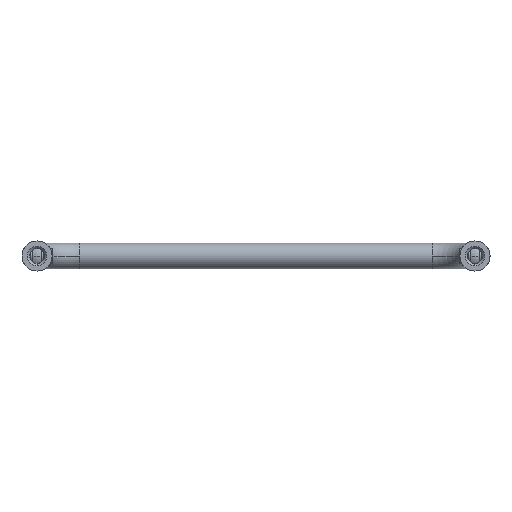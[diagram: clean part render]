
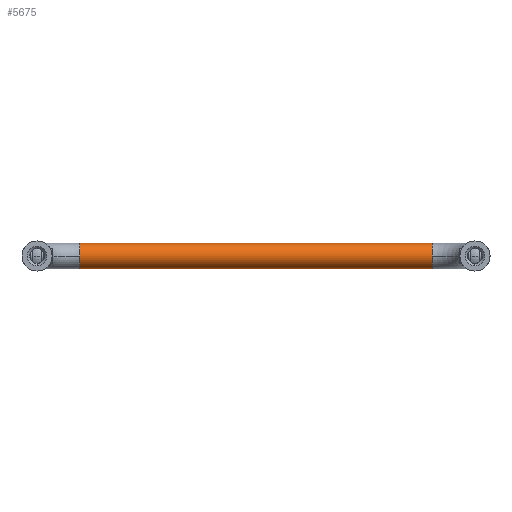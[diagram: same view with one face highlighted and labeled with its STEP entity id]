
A CAD part, front view. The second image highlights one B-rep face of the part: STEP entity #5675.
In plain terms, the highlighted cylindrical face has radius 3 mm (diameter 6 mm), a partial arc.
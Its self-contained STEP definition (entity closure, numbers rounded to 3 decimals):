
#8 = EDGE_CURVE ( 'NONE', #4899, #976, #615, .T. ) ;
#129 = DIRECTION ( 'NONE',  ( -1., 0., 0. ) ) ;
#591 = CIRCLE ( 'NONE', #3528, 3. ) ;
#615 = CIRCLE ( 'NONE', #1766, 3. ) ;
#731 = EDGE_CURVE ( 'NONE', #4084, #4728, #1395, .T. ) ;
#976 = VERTEX_POINT ( 'NONE', #1332 ) ;
#1023 = DIRECTION ( 'NONE',  ( 0., -1., 0. ) ) ;
#1127 = FACE_OUTER_BOUND ( 'NONE', #6838, .T. ) ;
#1329 = CARTESIAN_POINT ( 'NONE',  ( 41., 34.682, 0. ) ) ;
#1332 = CARTESIAN_POINT ( 'NONE',  ( 41., 31.682, 0. ) ) ;
#1395 = CIRCLE ( 'NONE', #7929, 3. ) ;
#1664 = DIRECTION ( 'NONE',  ( 1., 0., 0. ) ) ;
#1691 = DIRECTION ( 'NONE',  ( 0., -1., 0. ) ) ;
#1737 = ORIENTED_EDGE ( 'NONE', *, *, #7543, .F. ) ;
#1766 = AXIS2_PLACEMENT_3D ( 'NONE', #1329, #129, #7461 ) ;
#1767 = ORIENTED_EDGE ( 'NONE', *, *, #3821, .T. ) ;
#1789 = ORIENTED_EDGE ( 'NONE', *, *, #8, .T. ) ;
#1939 = CARTESIAN_POINT ( 'NONE',  ( -41., 34.682, -3. ) ) ;
#2175 = CARTESIAN_POINT ( 'NONE',  ( 41., 34.682, 0. ) ) ;
#2479 = EDGE_CURVE ( 'NONE', #4728, #7156, #7120, .T. ) ;
#2488 = CARTESIAN_POINT ( 'NONE',  ( -41., 34.682, 0. ) ) ;
#2516 = DIRECTION ( 'NONE',  ( 0., 0., -1. ) ) ;
#2688 = CARTESIAN_POINT ( 'NONE',  ( 41., 34.682, -3. ) ) ;
#2911 = AXIS2_PLACEMENT_3D ( 'NONE', #3502, #3618, #1023 ) ;
#3029 = DIRECTION ( 'NONE',  ( 1., 0., 0. ) ) ;
#3235 = CARTESIAN_POINT ( 'NONE',  ( -41., 34.682, -3. ) ) ;
#3502 = CARTESIAN_POINT ( 'NONE',  ( -41., 34.682, 0. ) ) ;
#3528 = AXIS2_PLACEMENT_3D ( 'NONE', #2175, #4610, #1691 ) ;
#3618 = DIRECTION ( 'NONE',  ( -1., 0., 0. ) ) ;
#3821 = EDGE_CURVE ( 'NONE', #5963, #4899, #4974, .T. ) ;
#4084 = VERTEX_POINT ( 'NONE', #4659 ) ;
#4393 = ORIENTED_EDGE ( 'NONE', *, *, #731, .F. ) ;
#4408 = ORIENTED_EDGE ( 'NONE', *, *, #4683, .T. ) ;
#4610 = DIRECTION ( 'NONE',  ( -1., 0., 0. ) ) ;
#4659 = CARTESIAN_POINT ( 'NONE',  ( -41., 31.682, 0. ) ) ;
#4683 = EDGE_CURVE ( 'NONE', #976, #7156, #591, .T. ) ;
#4723 = CYLINDRICAL_SURFACE ( 'NONE', #7892, 3. ) ;
#4728 = VERTEX_POINT ( 'NONE', #5984 ) ;
#4899 = VERTEX_POINT ( 'NONE', #2688 ) ;
#4974 = LINE ( 'NONE', #1939, #6118 ) ;
#5675 = ADVANCED_FACE ( 'NONE', ( #1127 ), #4723, .T. ) ;
#5890 = VECTOR ( 'NONE', #1664, 1000. ) ;
#5963 = VERTEX_POINT ( 'NONE', #3235 ) ;
#5984 = CARTESIAN_POINT ( 'NONE',  ( -41., 34.682, 3. ) ) ;
#5990 = DIRECTION ( 'NONE',  ( -1., 0., 0. ) ) ;
#6118 = VECTOR ( 'NONE', #3029, 1000. ) ;
#6373 = CIRCLE ( 'NONE', #2911, 3. ) ;
#6696 = CARTESIAN_POINT ( 'NONE',  ( 41., 34.682, 3. ) ) ;
#6819 = DIRECTION ( 'NONE',  ( 1., 0., 0. ) ) ;
#6838 = EDGE_LOOP ( 'NONE', ( #7721, #4393, #1737, #1767, #1789, #4408 ) ) ;
#7120 = LINE ( 'NONE', #7761, #5890 ) ;
#7156 = VERTEX_POINT ( 'NONE', #6696 ) ;
#7184 = CARTESIAN_POINT ( 'NONE',  ( -41., 34.682, 0. ) ) ;
#7461 = DIRECTION ( 'NONE',  ( 0., -1., 0. ) ) ;
#7543 = EDGE_CURVE ( 'NONE', #5963, #4084, #6373, .T. ) ;
#7721 = ORIENTED_EDGE ( 'NONE', *, *, #2479, .F. ) ;
#7761 = CARTESIAN_POINT ( 'NONE',  ( -41., 34.682, 3. ) ) ;
#7873 = DIRECTION ( 'NONE',  ( 0., -1., 0. ) ) ;
#7892 = AXIS2_PLACEMENT_3D ( 'NONE', #7184, #6819, #2516 ) ;
#7929 = AXIS2_PLACEMENT_3D ( 'NONE', #2488, #5990, #7873 ) ;
